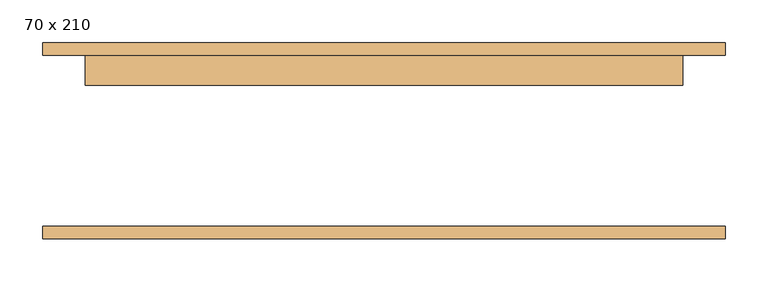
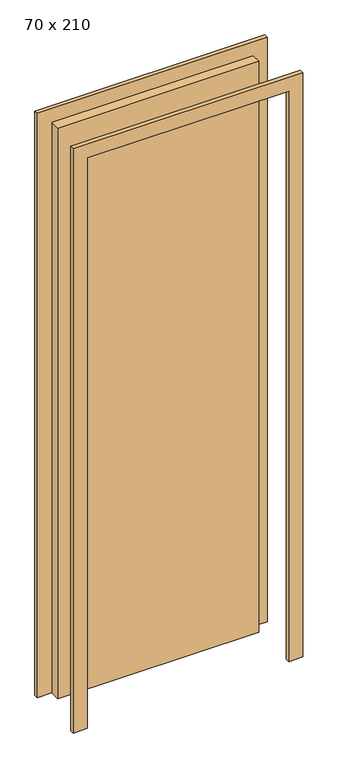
"""IFC4 building model written with IfcOpenShell, lengths in millimetres: door geometry, M_Descarga simples : 70 x 210."""

from ifc_helpers import new_model, si_unit, frame, origin, origin_with_axes, place, context, project, spatial, polyline, outline, extrude, source, transform, mapped, element, save


def door_70_x_210_60989ca5(model_context):
    return source(origin(), model_context, "Body", "SweptSolid", [
        extrude(outline(polyline([(2150.0, -400.0), (0.0, -400.0), (0.0, -350.0), (2100.0, -350.0), (2100.0, 350.0), (0.0, 350.0), (0.0, 400.0), (2150.0, 400.0), (2150.0, -400.0)])), frame((0.0, 100.0, 0.0), z_axis=(0.0, 1.0, 0.0), x_axis=(0.0, 0.0, 1.0)), (0.0, 0.0, 1.0), 15.0),
        extrude(outline(polyline([(2150.0, 400.0), (2150.0, -400.0), (0.0, -400.0), (0.0, -350.0), (2100.0, -350.0), (2100.0, 350.0), (0.0, 350.0), (0.0, 400.0), (2150.0, 400.0)])), frame((0.0, -115.0, 0.0), z_axis=(0.0, 1.0, 0.0), x_axis=(0.0, 0.0, 1.0)), (0.0, 0.0, 1.0), 15.0),
        extrude(outline(polyline([(350.0, 65.0), (-350.0, 65.0), (-350.0, 100.0), (350.0, 100.0), (350.0, 65.0)])), origin_with_axes(), (0.0, 0.0, 1.0), 2100.0),
    ])


if __name__ == "__main__":
    model = new_model("IFC4")
    model_context = context("Model", 3, world=origin())
    ifc_project = project(units=[si_unit("LENGTHUNIT", "METRE", prefix="MILLI")], contexts=[model_context])
    site = spatial("IfcSite", under=ifc_project)
    building = spatial("IfcBuilding", under=site)
    placement = place(None, origin())
    door_70_x_210_shape = door_70_x_210_60989ca5(model_context)
    element("IfcDoor", 1, ObjectType="M_Descarga simples : 70 x 210", at=placement, inside=building, context=model_context, shape_type="MappedRepresentation", body=[
        mapped(door_70_x_210_shape, transform((0.0, 0.0, 0.0), x_axis=(1.0, 0.0, 0.0), y_axis=(0.0, 1.0, 0.0), z_axis=(0.0, 0.0, 1.0))),
    ])
    save(model, "model.ifc")
